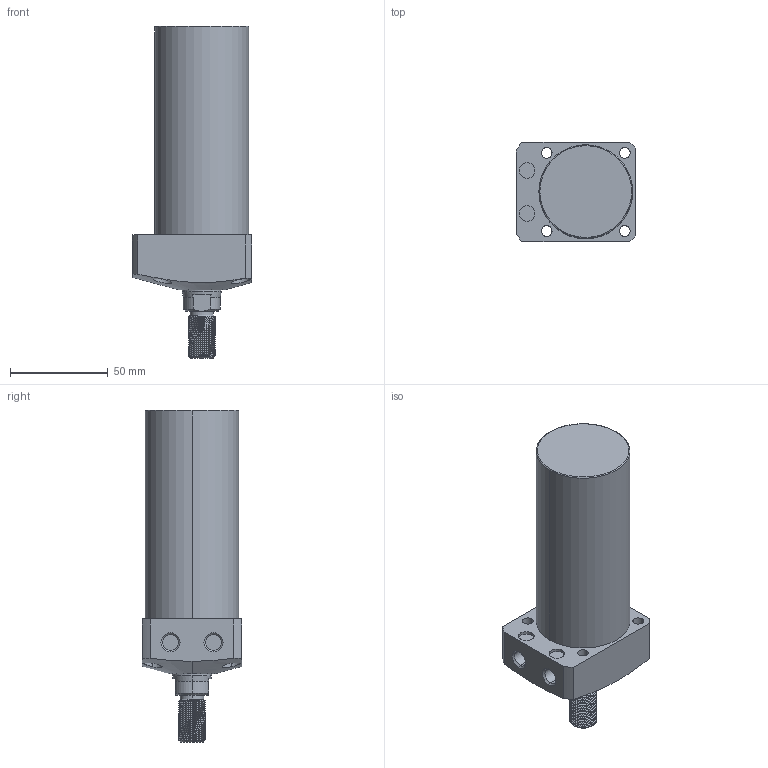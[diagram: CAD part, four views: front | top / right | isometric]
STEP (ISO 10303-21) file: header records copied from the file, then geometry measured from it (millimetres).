
FILE_DESCRIPTION (( 'STEP AP203' ), '1' );
FILE_NAME ('CLL-048CT-080.STEP', '2020-01-08T10:07:33', ( '' ), ( '' ), 'SwSTEP 2.0', 'SolidWorks 2015', '' );
FILE_SCHEMA (( 'CONFIG_CONTROL_DESIGN' ));
Length unit declared in the file: millimetre
Products named in the file (1): CLL-048CT-080
Bounding box: 61 x 51 x 170 mm (x, y, z)
Volume: 272607.5 mm3; surface area: 32201.5 mm2
Topology: 1 solids, 1 shells, 122 faces, 310 edges, 201 vertices
Faces by surface type: cylinder 77, plane 24, cone 17, torus 2, bspline 2
Entity records: 6475 total; most frequent: CARTESIAN_POINT 3674, ORIENTED_EDGE 620, DIRECTION 522, EDGE_CURVE 310, AXIS2_PLACEMENT_3D 206, VERTEX_POINT 201, EDGE_LOOP 141, ADVANCED_FACE 122
